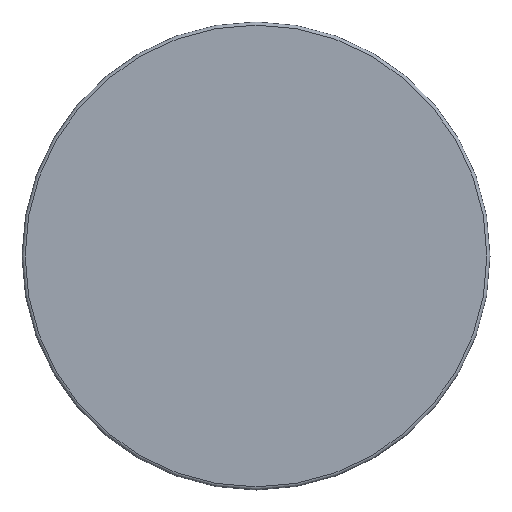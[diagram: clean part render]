
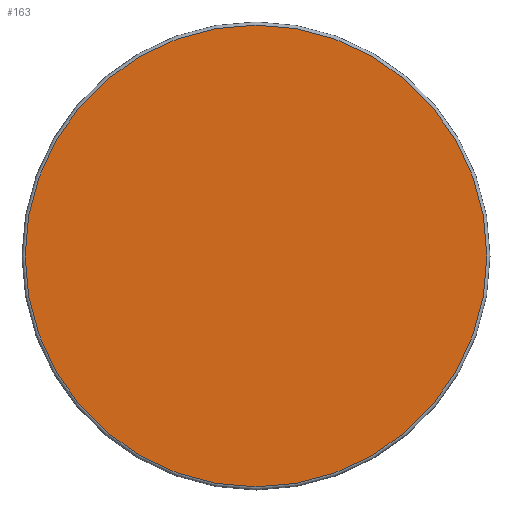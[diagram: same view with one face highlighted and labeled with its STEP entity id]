
A CAD part, front view. The second image highlights one B-rep face of the part: STEP entity #163.
In plain terms, the highlighted planar face has unit normal (0, -1, 0).
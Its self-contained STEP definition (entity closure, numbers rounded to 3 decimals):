
#66 = TOROIDAL_SURFACE('',#67,16.2,0.22);
#67 = AXIS2_PLACEMENT_3D('',#68,#69,#70);
#68 = CARTESIAN_POINT('',(-19.566,-22.131,0.));
#69 = DIRECTION('',(0.,-1.,0.));
#70 = DIRECTION('',(0.,0.,-1.));
#110 = VERTEX_POINT('',#111);
#111 = CARTESIAN_POINT('',(-19.566,-22.351,-16.2));
#133 = EDGE_CURVE('',#110,#110,#134,.T.);
#134 = SURFACE_CURVE('',#135,(#140,#147),.PCURVE_S1.);
#135 = CIRCLE('',#136,16.2);
#136 = AXIS2_PLACEMENT_3D('',#137,#138,#139);
#137 = CARTESIAN_POINT('',(-19.566,-22.351,0.));
#138 = DIRECTION('',(0.,-1.,0.));
#139 = DIRECTION('',(0.,0.,-1.));
#140 = PCURVE('',#66,#141);
#141 = DEFINITIONAL_REPRESENTATION('',(#142),#146);
#142 = LINE('',#143,#144);
#143 = CARTESIAN_POINT('',(0.,1.571));
#144 = VECTOR('',#145,1.);
#145 = DIRECTION('',(1.,0.));
#146 = ( GEOMETRIC_REPRESENTATION_CONTEXT(2) 
PARAMETRIC_REPRESENTATION_CONTEXT() REPRESENTATION_CONTEXT('2D SPACE',''
  ) );
#147 = PCURVE('',#148,#153);
#148 = PLANE('',#149);
#149 = AXIS2_PLACEMENT_3D('',#150,#151,#152);
#150 = CARTESIAN_POINT('',(-19.566,-22.351,0.));
#151 = DIRECTION('',(0.,-1.,0.));
#152 = DIRECTION('',(0.,-0.,-1.));
#153 = DEFINITIONAL_REPRESENTATION('',(#154),#158);
#154 = CIRCLE('',#155,16.2);
#155 = AXIS2_PLACEMENT_2D('',#156,#157);
#156 = CARTESIAN_POINT('',(0.,0.));
#157 = DIRECTION('',(1.,0.));
#158 = ( GEOMETRIC_REPRESENTATION_CONTEXT(2) 
PARAMETRIC_REPRESENTATION_CONTEXT() REPRESENTATION_CONTEXT('2D SPACE',''
  ) );
#163 = ADVANCED_FACE('',(#164),#148,.T.);
#164 = FACE_BOUND('',#165,.T.);
#165 = EDGE_LOOP('',(#166));
#166 = ORIENTED_EDGE('',*,*,#133,.T.);
